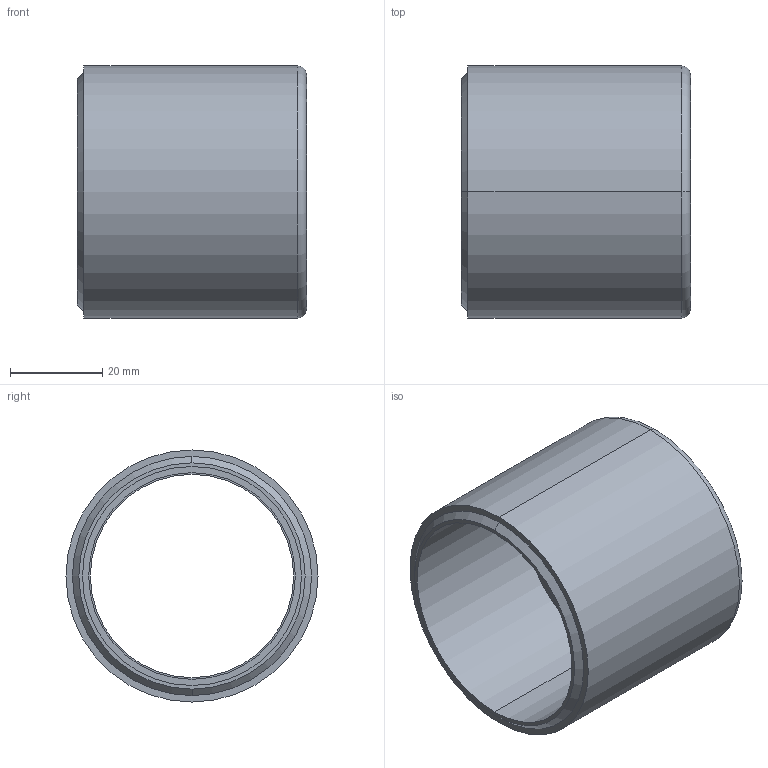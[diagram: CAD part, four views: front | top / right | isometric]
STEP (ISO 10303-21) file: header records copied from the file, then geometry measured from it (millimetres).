
FILE_DESCRIPTION (( 'STEP AP214' ), '1' );
FILE_NAME ('CR-INFV-11-12.STEP', '2020-12-10T16:59:45', ( '' ), ( '' ), 'SwSTEP 2.0', 'SolidWorks 2019', '' );
FILE_SCHEMA (( 'AUTOMOTIVE_DESIGN' ));
Length unit declared in the file: inch
Products named in the file (1): CR-INFV-11-12
Bounding box: 49.57 x 54.56 x 54.56 mm (x, y, z)
Volume: 31703.6 mm3; surface area: 17052.5 mm2
Topology: 1 solids, 1 shells, 20 faces, 40 edges, 26 vertices
Faces by surface type: cylinder 10, plane 6, cone 2, torus 2
Entity records: 840 total; most frequent: DIRECTION 110, CARTESIAN_POINT 87, ORIENTED_EDGE 80, AXIS2_PLACEMENT_3D 49, EDGE_CURVE 40, CIRCLE 28, VERTEX_POINT 26, EDGE_LOOP 26
